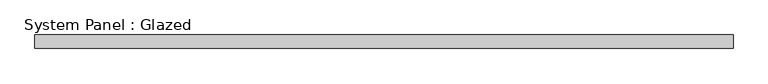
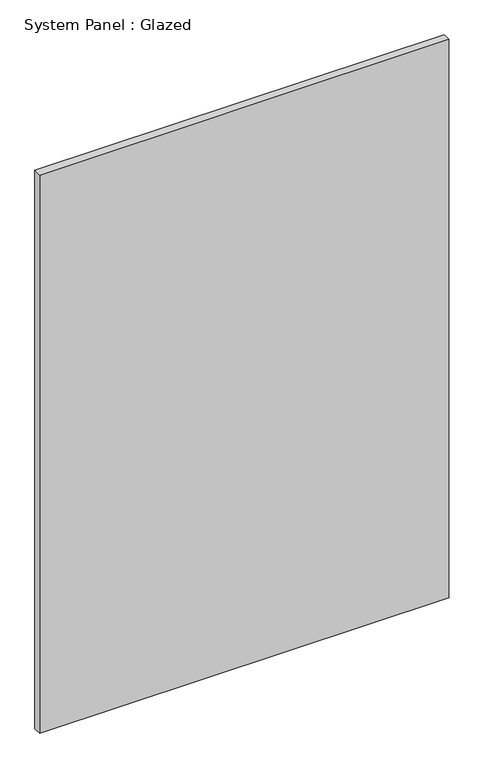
"""IFC4 building model written with IfcOpenShell, lengths in millimetres: plate geometry, System Panel : Glazed."""

from ifc_helpers import new_model, si_unit, origin, origin_with_axes, place, context, project, spatial, polyline, outline, extrude, source, transform, mapped, element, save


def system_panel_glazed_af9e971b(model_context):
    return source(origin(), model_context, "Body", "SweptSolid", [
        extrude(outline(polyline([(643.17875, 24.5), (-643.17875, 24.5), (-643.17875, 49.5), (643.17875, 49.5), (643.17875, 24.5)])), origin_with_axes(), (0.0, 0.0, 1.0), 1854.4),
    ])


if __name__ == "__main__":
    model = new_model("IFC4")
    model_context = context("Model", 3, world=origin())
    ifc_project = project(units=[si_unit("LENGTHUNIT", "METRE", prefix="MILLI")], contexts=[model_context])
    site = spatial("IfcSite", under=ifc_project)
    building = spatial("IfcBuilding", under=site)
    placement = place(None, origin())
    system_panel_glazed_shape = system_panel_glazed_af9e971b(model_context)
    element("IfcPlate", 1, ObjectType="System Panel : Glazed", at=placement, inside=building, context=model_context, shape_type="MappedRepresentation", body=[
        mapped(system_panel_glazed_shape, transform((0.0, 0.0, 0.0), x_axis=(1.0, 0.0, 0.0), y_axis=(0.0, 1.0, 0.0), z_axis=(0.0, 0.0, 1.0))),
    ])
    save(model, "model.ifc")
